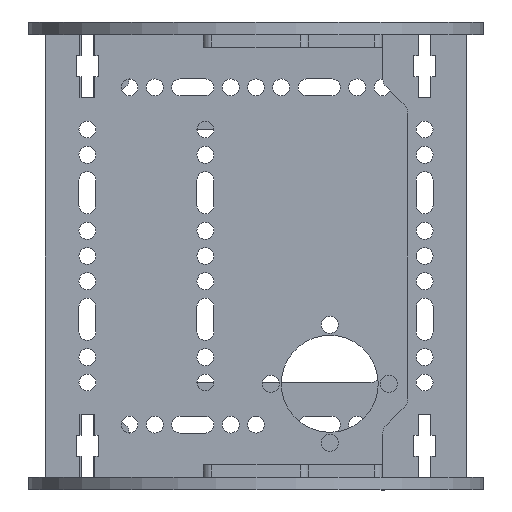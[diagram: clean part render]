
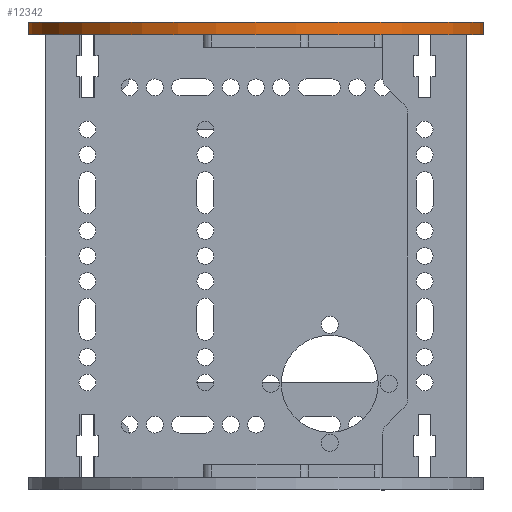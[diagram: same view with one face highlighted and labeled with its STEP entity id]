
A CAD part, left-side view. The second image highlights one B-rep face of the part: STEP entity #12342.
In plain terms, the highlighted cylindrical face has radius 54 mm (diameter 108 mm), a partial arc.
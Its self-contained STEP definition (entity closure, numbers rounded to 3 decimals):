
#114=CIRCLE('',#13069,54.);
#196=CIRCLE('',#13152,54.);
#614=CYLINDRICAL_SURFACE('',#13173,54.);
#1221=ORIENTED_EDGE('',*,*,#4469,.F.);
#1222=ORIENTED_EDGE('',*,*,#4513,.F.);
#1223=ORIENTED_EDGE('',*,*,#4310,.T.);
#1224=ORIENTED_EDGE('',*,*,#4514,.T.);
#4310=EDGE_CURVE('',#5985,#5984,#114,.T.);
#4469=EDGE_CURVE('',#6143,#6144,#196,.T.);
#4513=EDGE_CURVE('',#5985,#6143,#7297,.T.);
#4514=EDGE_CURVE('',#5984,#6144,#7298,.T.);
#5984=VERTEX_POINT('',#17840);
#5985=VERTEX_POINT('',#17842);
#6143=VERTEX_POINT('',#18159);
#6144=VERTEX_POINT('',#18161);
#7297=LINE('',#18248,#8449);
#7298=LINE('',#18250,#8450);
#8449=VECTOR('',#14654,1000.);
#8450=VECTOR('',#14657,1000.);
#9613=EDGE_LOOP('',(#1221,#1222,#1223,#1224));
#10861=FACE_BOUND('',#9613,.T.);
#12342=ADVANCED_FACE('',(#10861),#614,.T.);
#13069=AXIS2_PLACEMENT_3D('',#17841,#14335,#14336);
#13152=AXIS2_PLACEMENT_3D('',#18160,#14578,#14579);
#13173=AXIS2_PLACEMENT_3D('',#18249,#14655,#14656);
#14335=DIRECTION('',(0.,0.,1.));
#14336=DIRECTION('',(1.,0.,0.));
#14578=DIRECTION('',(0.,0.,1.));
#14579=DIRECTION('',(1.,0.,0.));
#14654=DIRECTION('',(0.,0.,1.));
#14655=DIRECTION('',(0.,0.,1.));
#14656=DIRECTION('',(1.,0.,0.));
#14657=DIRECTION('',(0.,0.,1.));
#17840=CARTESIAN_POINT('',(-400.,-54.,-3.));
#17841=CARTESIAN_POINT('',(-400.,0.,-3.));
#17842=CARTESIAN_POINT('',(-400.,54.,-3.));
#18159=CARTESIAN_POINT('',(-400.,54.,0.));
#18160=CARTESIAN_POINT('',(-400.,0.,0.));
#18161=CARTESIAN_POINT('',(-400.,-54.,0.));
#18248=CARTESIAN_POINT('',(-400.,54.,-3.));
#18249=CARTESIAN_POINT('',(-400.,0.,-3.));
#18250=CARTESIAN_POINT('',(-400.,-54.,-3.));
